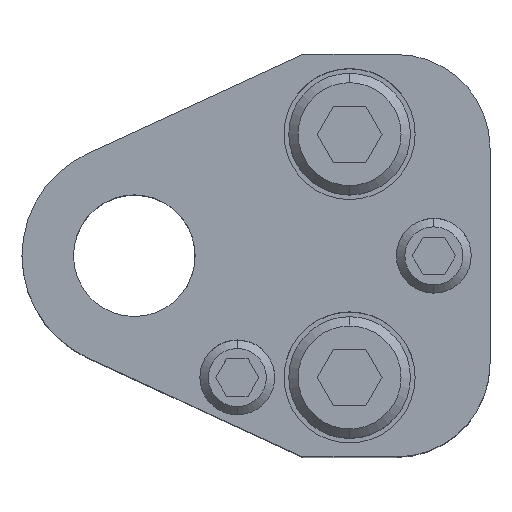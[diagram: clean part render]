
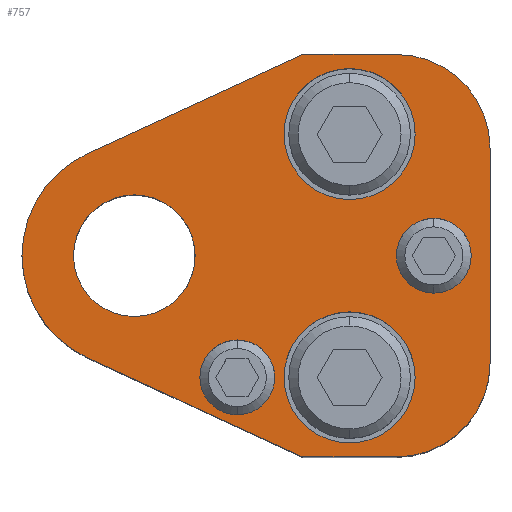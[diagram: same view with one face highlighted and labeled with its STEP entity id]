
A CAD part, top view. The second image highlights one B-rep face of the part: STEP entity #757.
In plain terms, the highlighted planar face has unit normal (0, 0, 1).
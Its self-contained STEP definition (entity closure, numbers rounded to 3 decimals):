
#428=LINE('',#3648,#598);
#433=LINE('',#3663,#603);
#437=LINE('',#3675,#607);
#442=LINE('',#3684,#612);
#447=LINE('',#3698,#617);
#598=VECTOR('',#2943,1.);
#603=VECTOR('',#2956,1.);
#607=VECTOR('',#2968,1.);
#612=VECTOR('',#2975,1.);
#617=VECTOR('',#2988,1.);
#757=ADVANCED_FACE('',(#863,#864,#865,#866,#867,#868),#834,.T.);
#834=PLANE('',#2455);
#863=FACE_BOUND('',#1003,.T.);
#864=FACE_BOUND('',#1004,.T.);
#865=FACE_BOUND('',#1005,.T.);
#866=FACE_BOUND('',#1006,.T.);
#867=FACE_BOUND('',#1007,.T.);
#868=FACE_BOUND('',#1008,.T.);
#1003=EDGE_LOOP('',(#1518,#1519,#1520,#1521,#1522,#1523,#1524,#1525));
#1004=EDGE_LOOP('',(#1526,#1527));
#1005=EDGE_LOOP('',(#1528,#1529));
#1006=EDGE_LOOP('',(#1530,#1531));
#1007=EDGE_LOOP('',(#1532,#1533));
#1008=EDGE_LOOP('',(#1534,#1535));
#1518=ORIENTED_EDGE('',*,*,#2038,.T.);
#1519=ORIENTED_EDGE('',*,*,#2020,.T.);
#1520=ORIENTED_EDGE('',*,*,#2024,.T.);
#1521=ORIENTED_EDGE('',*,*,#2027,.T.);
#1522=ORIENTED_EDGE('',*,*,#2030,.T.);
#1523=ORIENTED_EDGE('',*,*,#2033,.T.);
#1524=ORIENTED_EDGE('',*,*,#2045,.T.);
#1525=ORIENTED_EDGE('',*,*,#2041,.T.);
#1526=ORIENTED_EDGE('',*,*,#2080,.F.);
#1527=ORIENTED_EDGE('',*,*,#2081,.F.);
#1528=ORIENTED_EDGE('',*,*,#2082,.F.);
#1529=ORIENTED_EDGE('',*,*,#2083,.F.);
#1530=ORIENTED_EDGE('',*,*,#2070,.F.);
#1531=ORIENTED_EDGE('',*,*,#2066,.F.);
#1532=ORIENTED_EDGE('',*,*,#2064,.F.);
#1533=ORIENTED_EDGE('',*,*,#2060,.F.);
#1534=ORIENTED_EDGE('',*,*,#2084,.T.);
#1535=ORIENTED_EDGE('',*,*,#2085,.T.);
#1757=VERTEX_POINT('',#3647);
#1758=VERTEX_POINT('',#3649);
#1761=VERTEX_POINT('',#3656);
#1763=VERTEX_POINT('',#3662);
#1765=VERTEX_POINT('',#3668);
#1767=VERTEX_POINT('',#3674);
#1771=VERTEX_POINT('',#3685);
#1773=VERTEX_POINT('',#3691);
#1787=VERTEX_POINT('',#3733);
#1788=VERTEX_POINT('',#3734);
#1791=VERTEX_POINT('',#3745);
#1792=VERTEX_POINT('',#3746);
#1799=VERTEX_POINT('',#3773);
#1800=VERTEX_POINT('',#3774);
#1801=VERTEX_POINT('',#3777);
#1802=VERTEX_POINT('',#3778);
#1803=VERTEX_POINT('',#3781);
#1804=VERTEX_POINT('',#3782);
#2020=EDGE_CURVE('',#1758,#1757,#428,.T.);
#2024=EDGE_CURVE('',#1757,#1761,#2191,.T.);
#2027=EDGE_CURVE('',#1761,#1763,#433,.T.);
#2030=EDGE_CURVE('',#1763,#1765,#2193,.T.);
#2033=EDGE_CURVE('',#1765,#1767,#437,.T.);
#2038=EDGE_CURVE('',#1771,#1758,#442,.T.);
#2041=EDGE_CURVE('',#1773,#1771,#2196,.T.);
#2045=EDGE_CURVE('',#1767,#1773,#447,.T.);
#2060=EDGE_CURVE('',#1787,#1788,#2205,.T.);
#2064=EDGE_CURVE('',#1788,#1787,#2207,.T.);
#2066=EDGE_CURVE('',#1791,#1792,#2209,.T.);
#2070=EDGE_CURVE('',#1792,#1791,#2211,.T.);
#2080=EDGE_CURVE('',#1799,#1800,#2217,.T.);
#2081=EDGE_CURVE('',#1800,#1799,#2218,.T.);
#2082=EDGE_CURVE('',#1801,#1802,#2219,.T.);
#2083=EDGE_CURVE('',#1802,#1801,#2220,.T.);
#2084=EDGE_CURVE('',#1803,#1804,#2221,.T.);
#2085=EDGE_CURVE('',#1804,#1803,#2222,.T.);
#2191=CIRCLE('',#2406,10.);
#2193=CIRCLE('',#2410,10.);
#2196=CIRCLE('',#2416,12.);
#2205=CIRCLE('',#2429,4.);
#2207=CIRCLE('',#2432,4.);
#2209=CIRCLE('',#2435,4.);
#2211=CIRCLE('',#2438,4.);
#2217=CIRCLE('',#2449,7.);
#2218=CIRCLE('',#2450,7.);
#2219=CIRCLE('',#2451,7.);
#2220=CIRCLE('',#2452,7.);
#2221=CIRCLE('',#2453,6.5);
#2222=CIRCLE('',#2454,6.5);
#2406=AXIS2_PLACEMENT_3D('',#3657,#2949,#2950);
#2410=AXIS2_PLACEMENT_3D('',#3669,#2961,#2962);
#2416=AXIS2_PLACEMENT_3D('',#3690,#2981,#2982);
#2429=AXIS2_PLACEMENT_3D('',#3732,#3016,#3017);
#2432=AXIS2_PLACEMENT_3D('',#3741,#3024,#3025);
#2435=AXIS2_PLACEMENT_3D('',#3744,#3030,#3031);
#2438=AXIS2_PLACEMENT_3D('',#3753,#3038,#3039);
#2449=AXIS2_PLACEMENT_3D('',#3772,#3064,#3065);
#2450=AXIS2_PLACEMENT_3D('',#3775,#3066,#3067);
#2451=AXIS2_PLACEMENT_3D('',#3776,#3068,#3069);
#2452=AXIS2_PLACEMENT_3D('',#3779,#3070,#3071);
#2453=AXIS2_PLACEMENT_3D('',#3780,#3072,#3073);
#2454=AXIS2_PLACEMENT_3D('',#3783,#3074,#3075);
#2455=AXIS2_PLACEMENT_3D('',#3784,#3076,#3077);
#2943=DIRECTION('',(1.,0.,0.));
#2949=DIRECTION('',(0.,0.,1.));
#2950=DIRECTION('',(-0.707,0.707,0.));
#2956=DIRECTION('',(0.,1.,0.));
#2961=DIRECTION('',(0.,0.,1.));
#2962=DIRECTION('',(-0.707,-0.707,0.));
#2968=DIRECTION('',(-1.,0.,0.));
#2975=DIRECTION('',(0.908,-0.418,0.));
#2981=DIRECTION('',(0.,0.,1.));
#2982=DIRECTION('',(1.,0.,0.));
#2988=DIRECTION('',(-0.908,-0.418,0.));
#3016=DIRECTION('',(0.,0.,1.));
#3017=DIRECTION('',(-1.,0.,0.));
#3024=DIRECTION('',(0.,0.,1.));
#3025=DIRECTION('',(1.,0.,0.));
#3030=DIRECTION('',(0.,0.,1.));
#3031=DIRECTION('',(-1.,0.,0.));
#3038=DIRECTION('',(0.,0.,1.));
#3039=DIRECTION('',(1.,0.,0.));
#3064=DIRECTION('',(0.,0.,1.));
#3065=DIRECTION('',(1.,0.,0.));
#3066=DIRECTION('',(0.,0.,1.));
#3067=DIRECTION('',(-1.,0.,0.));
#3068=DIRECTION('',(0.,0.,1.));
#3069=DIRECTION('',(1.,0.,0.));
#3070=DIRECTION('',(0.,0.,1.));
#3071=DIRECTION('',(-1.,0.,0.));
#3072=DIRECTION('',(0.,0.,-1.));
#3073=DIRECTION('',(-1.,0.,0.));
#3074=DIRECTION('',(0.,0.,-1.));
#3075=DIRECTION('',(1.,0.,0.));
#3076=DIRECTION('',(0.,0.,1.));
#3077=DIRECTION('',(0.908,-0.418,0.));
#3647=CARTESIAN_POINT('',(28.,-21.5,35.));
#3648=CARTESIAN_POINT('',(18.,-21.5,35.));
#3649=CARTESIAN_POINT('',(18.,-21.5,35.));
#3656=CARTESIAN_POINT('',(38.,-11.5,35.));
#3657=CARTESIAN_POINT('',(28.,-11.5,35.));
#3662=CARTESIAN_POINT('',(38.,11.5,35.));
#3663=CARTESIAN_POINT('',(38.,11.5,35.));
#3668=CARTESIAN_POINT('',(28.,21.5,35.));
#3669=CARTESIAN_POINT('',(28.,11.5,35.));
#3674=CARTESIAN_POINT('',(18.,21.5,35.));
#3675=CARTESIAN_POINT('',(18.,21.5,35.));
#3684=CARTESIAN_POINT('',(18.,-21.5,35.));
#3685=CARTESIAN_POINT('',(-5.019,-10.9,35.));
#3690=CARTESIAN_POINT('',(0.,0.,35.));
#3691=CARTESIAN_POINT('',(-5.019,10.9,35.));
#3698=CARTESIAN_POINT('',(18.,21.5,35.));
#3732=CARTESIAN_POINT('',(11.,-13.,35.));
#3733=CARTESIAN_POINT('',(11.,-17.,35.));
#3734=CARTESIAN_POINT('',(11.,-9.,35.));
#3741=CARTESIAN_POINT('',(11.,-13.,35.));
#3744=CARTESIAN_POINT('',(32.,0.,35.));
#3745=CARTESIAN_POINT('',(32.,-4.,35.));
#3746=CARTESIAN_POINT('',(32.,4.,35.));
#3753=CARTESIAN_POINT('',(32.,0.,35.));
#3772=CARTESIAN_POINT('',(23.,13.,35.));
#3773=CARTESIAN_POINT('',(23.,20.,35.));
#3774=CARTESIAN_POINT('',(23.,6.,35.));
#3775=CARTESIAN_POINT('',(23.,13.,35.));
#3776=CARTESIAN_POINT('',(23.,-13.,35.));
#3777=CARTESIAN_POINT('',(23.,-6.,35.));
#3778=CARTESIAN_POINT('',(23.,-20.,35.));
#3779=CARTESIAN_POINT('',(23.,-13.,35.));
#3780=CARTESIAN_POINT('',(0.,0.,35.));
#3781=CARTESIAN_POINT('',(0.,6.5,35.));
#3782=CARTESIAN_POINT('',(0.,-6.5,35.));
#3783=CARTESIAN_POINT('',(0.,0.,35.));
#3784=CARTESIAN_POINT('',(-5.019,-10.9,35.));
